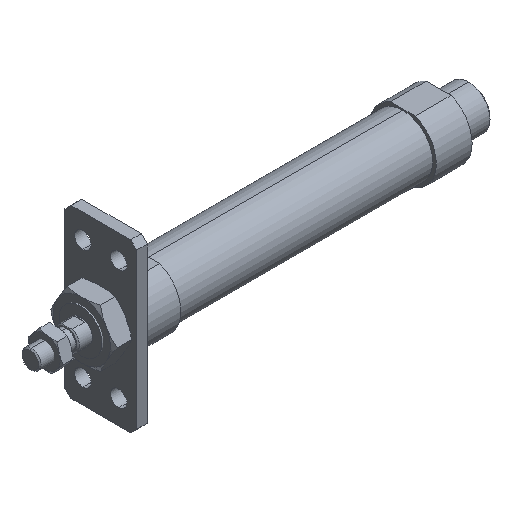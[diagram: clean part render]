
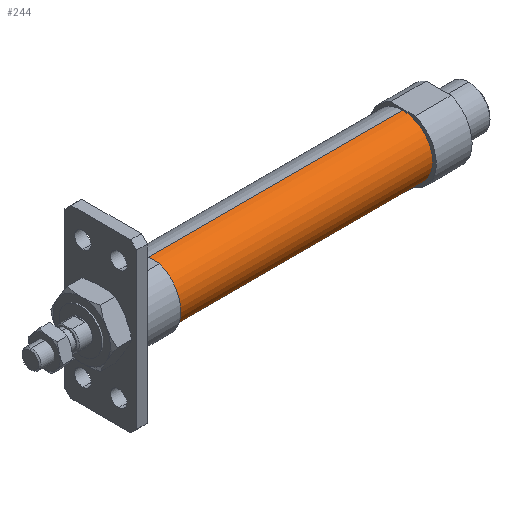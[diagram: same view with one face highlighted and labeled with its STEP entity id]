
A CAD part, isometric view. The second image highlights one B-rep face of the part: STEP entity #244.
In plain terms, the highlighted cylindrical face has radius 12.5 mm (diameter 25 mm), a partial arc.
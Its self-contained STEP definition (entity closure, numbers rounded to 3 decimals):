
#20 = VERTEX_POINT ( 'NONE', #958 ) ;
#76 = CARTESIAN_POINT ( 'NONE',  ( -6.469, 0., -12.5 ) ) ;
#234 = ORIENTED_EDGE ( 'NONE', *, *, #562, .F. ) ;
#244 = ADVANCED_FACE ( 'NONE', ( #898 ), #1800, .T. ) ;
#295 = ORIENTED_EDGE ( 'NONE', *, *, #2100, .T. ) ;
#392 = AXIS2_PLACEMENT_3D ( 'NONE', #2230, #1574, #2940 ) ;
#562 = EDGE_CURVE ( 'NONE', #1599, #924, #3941, .T. ) ;
#753 = DIRECTION ( 'NONE',  ( 0., 0., 1. ) ) ;
#892 = CIRCLE ( 'NONE', #2689, 12.5 ) ;
#898 = FACE_OUTER_BOUND ( 'NONE', #1096, .T. ) ;
#924 = VERTEX_POINT ( 'NONE', #1667 ) ;
#958 = CARTESIAN_POINT ( 'NONE',  ( 156., 0., 12.5 ) ) ;
#970 = CARTESIAN_POINT ( 'NONE',  ( -6.469, 0., 12.5 ) ) ;
#999 = VECTOR ( 'NONE', #2572, 1000. ) ;
#1096 = EDGE_LOOP ( 'NONE', ( #1444, #2379, #295, #234 ) ) ;
#1186 = DIRECTION ( 'NONE',  ( -1., 0., 0. ) ) ;
#1444 = ORIENTED_EDGE ( 'NONE', *, *, #3542, .F. ) ;
#1574 = DIRECTION ( 'NONE',  ( -1., 0., 0. ) ) ;
#1599 = VERTEX_POINT ( 'NONE', #2368 ) ;
#1667 = CARTESIAN_POINT ( 'NONE',  ( 49., 0., 12.5 ) ) ;
#1800 = CYLINDRICAL_SURFACE ( 'NONE', #3635, 12.5 ) ;
#1910 = VECTOR ( 'NONE', #2009, 1000. ) ;
#2009 = DIRECTION ( 'NONE',  ( -1., 0., 0. ) ) ;
#2080 = CARTESIAN_POINT ( 'NONE',  ( 156., 0., -12.5 ) ) ;
#2100 = EDGE_CURVE ( 'NONE', #20, #924, #2703, .T. ) ;
#2230 = CARTESIAN_POINT ( 'NONE',  ( 49., 0., 0. ) ) ;
#2350 = EDGE_CURVE ( 'NONE', #2964, #20, #892, .T. ) ;
#2368 = CARTESIAN_POINT ( 'NONE',  ( 49., 0., -12.5 ) ) ;
#2379 = ORIENTED_EDGE ( 'NONE', *, *, #2350, .T. ) ;
#2459 = DIRECTION ( 'NONE',  ( -1., 0., 0. ) ) ;
#2508 = CARTESIAN_POINT ( 'NONE',  ( 156., 0., 0. ) ) ;
#2572 = DIRECTION ( 'NONE',  ( -1., 0., 0. ) ) ;
#2689 = AXIS2_PLACEMENT_3D ( 'NONE', #2508, #1186, #753 ) ;
#2703 = LINE ( 'NONE', #970, #999 ) ;
#2897 = CARTESIAN_POINT ( 'NONE',  ( -6.469, 0., 0. ) ) ;
#2940 = DIRECTION ( 'NONE',  ( 0., 0., 1. ) ) ;
#2964 = VERTEX_POINT ( 'NONE', #2080 ) ;
#3421 = DIRECTION ( 'NONE',  ( 0., 0., 1. ) ) ;
#3542 = EDGE_CURVE ( 'NONE', #2964, #1599, #3778, .T. ) ;
#3635 = AXIS2_PLACEMENT_3D ( 'NONE', #2897, #2459, #3421 ) ;
#3778 = LINE ( 'NONE', #76, #1910 ) ;
#3941 = CIRCLE ( 'NONE', #392, 12.5 ) ;
